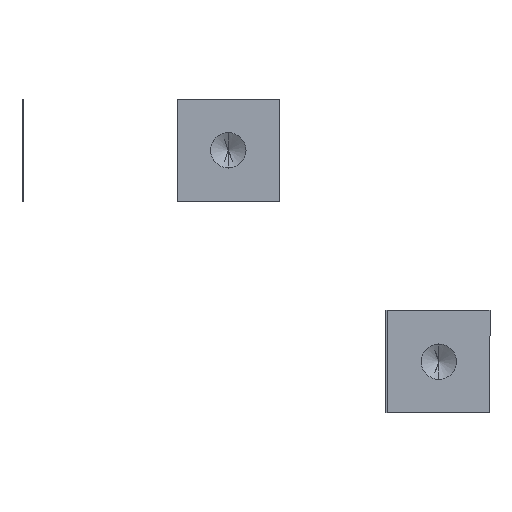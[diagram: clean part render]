
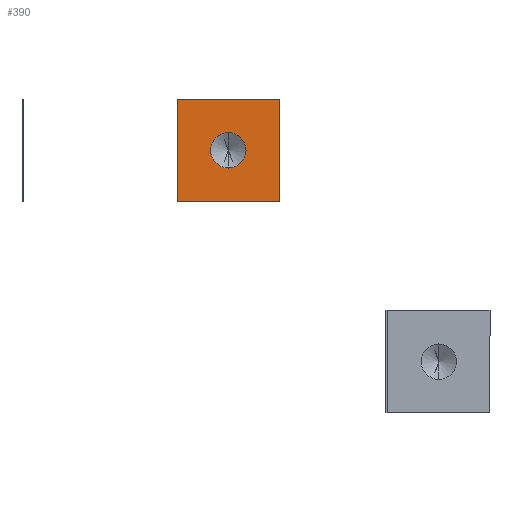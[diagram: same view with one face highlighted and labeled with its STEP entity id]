
A CAD part, front view. The second image highlights one B-rep face of the part: STEP entity #390.
In plain terms, the highlighted planar face has unit normal (0, -1, 0).
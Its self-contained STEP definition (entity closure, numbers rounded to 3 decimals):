
#3 = DIRECTION ( 'NONE',  ( 0., 0., 1. ) ) ;
#11 = VERTEX_POINT ( 'NONE', #299 ) ;
#95 = EDGE_CURVE ( 'NONE', #953, #1738, #2557, .T. ) ;
#166 = LINE ( 'NONE', #1574, #1246 ) ;
#184 = DIRECTION ( 'NONE',  ( -1., 0., 0. ) ) ;
#187 = CIRCLE ( 'NONE', #2279, 1.727 ) ;
#242 = LINE ( 'NONE', #2072, #368 ) ;
#299 = CARTESIAN_POINT ( 'NONE',  ( 0., 0., -1.727 ) ) ;
#303 = EDGE_CURVE ( 'NONE', #11, #1299, #1714, .T. ) ;
#368 = VECTOR ( 'NONE', #1072, 1000. ) ;
#390 = ADVANCED_FACE ( 'NONE', ( #1674, #1904 ), #1465, .F. ) ;
#456 = ORIENTED_EDGE ( 'NONE', *, *, #1955, .F. ) ;
#458 = DIRECTION ( 'NONE',  ( 0., -1., 0. ) ) ;
#641 = CARTESIAN_POINT ( 'NONE',  ( -5., 0., -5. ) ) ;
#654 = CARTESIAN_POINT ( 'NONE',  ( -5., 0., -5. ) ) ;
#663 = AXIS2_PLACEMENT_3D ( 'NONE', #2309, #2493, #3 ) ;
#707 = VECTOR ( 'NONE', #184, 1000. ) ;
#886 = EDGE_LOOP ( 'NONE', ( #1518, #1182, #456, #2360 ) ) ;
#890 = EDGE_CURVE ( 'NONE', #1299, #11, #187, .T. ) ;
#953 = VERTEX_POINT ( 'NONE', #1110 ) ;
#994 = CARTESIAN_POINT ( 'NONE',  ( -5., 0., 5. ) ) ;
#1008 = AXIS2_PLACEMENT_3D ( 'NONE', #1811, #1275, #1249 ) ;
#1072 = DIRECTION ( 'NONE',  ( 1., 0., 0. ) ) ;
#1110 = CARTESIAN_POINT ( 'NONE',  ( 5., 0., 5. ) ) ;
#1119 = ORIENTED_EDGE ( 'NONE', *, *, #303, .F. ) ;
#1182 = ORIENTED_EDGE ( 'NONE', *, *, #1669, .F. ) ;
#1246 = VECTOR ( 'NONE', #2246, 1000. ) ;
#1249 = DIRECTION ( 'NONE',  ( 0., 0., -1. ) ) ;
#1275 = DIRECTION ( 'NONE',  ( 0., -1., 0. ) ) ;
#1299 = VERTEX_POINT ( 'NONE', #1784 ) ;
#1321 = CARTESIAN_POINT ( 'NONE',  ( 5., 0., -5. ) ) ;
#1445 = CARTESIAN_POINT ( 'NONE',  ( 0., 0., 0. ) ) ;
#1453 = CARTESIAN_POINT ( 'NONE',  ( 5., 0., -5. ) ) ;
#1465 = PLANE ( 'NONE',  #663 ) ;
#1518 = ORIENTED_EDGE ( 'NONE', *, *, #95, .F. ) ;
#1541 = DIRECTION ( 'NONE',  ( 0., 0., -1. ) ) ;
#1574 = CARTESIAN_POINT ( 'NONE',  ( -5., 0., -5. ) ) ;
#1669 = EDGE_CURVE ( 'NONE', #2550, #953, #242, .T. ) ;
#1674 = FACE_BOUND ( 'NONE', #2608, .T. ) ;
#1714 = CIRCLE ( 'NONE', #1008, 1.727 ) ;
#1717 = DIRECTION ( 'NONE',  ( 0., 0., -1. ) ) ;
#1726 = ORIENTED_EDGE ( 'NONE', *, *, #890, .F. ) ;
#1738 = VERTEX_POINT ( 'NONE', #1453 ) ;
#1784 = CARTESIAN_POINT ( 'NONE',  ( 0., 0., 1.727 ) ) ;
#1811 = CARTESIAN_POINT ( 'NONE',  ( 0., 0., 0. ) ) ;
#1904 = FACE_OUTER_BOUND ( 'NONE', #886, .T. ) ;
#1955 = EDGE_CURVE ( 'NONE', #2204, #2550, #166, .T. ) ;
#2072 = CARTESIAN_POINT ( 'NONE',  ( -5., 0., 5. ) ) ;
#2204 = VERTEX_POINT ( 'NONE', #654 ) ;
#2243 = VECTOR ( 'NONE', #1541, 1000. ) ;
#2246 = DIRECTION ( 'NONE',  ( 0., 0., 1. ) ) ;
#2279 = AXIS2_PLACEMENT_3D ( 'NONE', #1445, #458, #1717 ) ;
#2309 = CARTESIAN_POINT ( 'NONE',  ( 0., 0., 0. ) ) ;
#2325 = EDGE_CURVE ( 'NONE', #1738, #2204, #2498, .T. ) ;
#2360 = ORIENTED_EDGE ( 'NONE', *, *, #2325, .F. ) ;
#2493 = DIRECTION ( 'NONE',  ( 0., 1., 0. ) ) ;
#2498 = LINE ( 'NONE', #641, #707 ) ;
#2550 = VERTEX_POINT ( 'NONE', #994 ) ;
#2557 = LINE ( 'NONE', #1321, #2243 ) ;
#2608 = EDGE_LOOP ( 'NONE', ( #1119, #1726 ) ) ;
